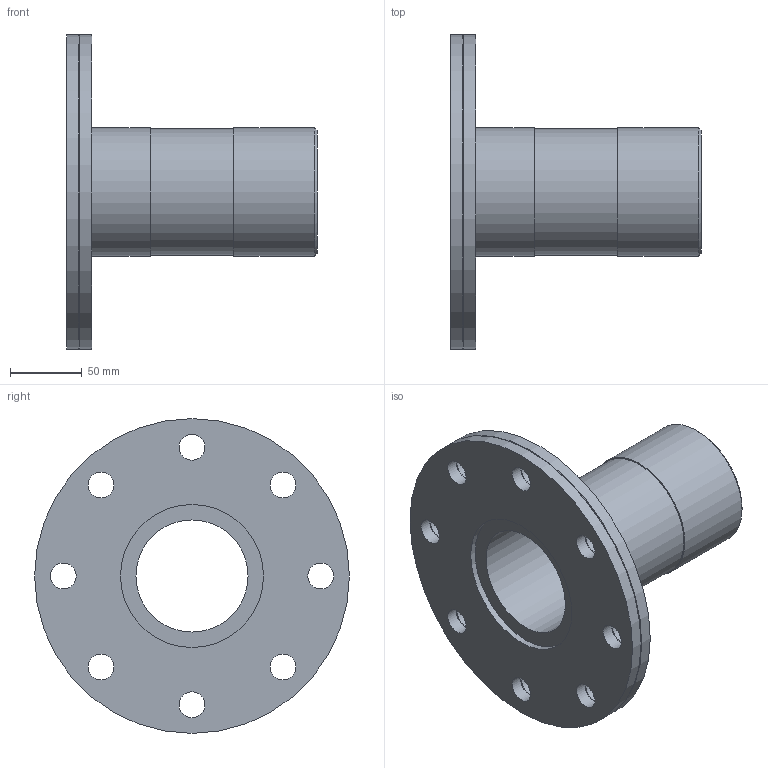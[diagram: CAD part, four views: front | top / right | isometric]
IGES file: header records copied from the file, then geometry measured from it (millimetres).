
Global section: file name: 0723060900400A.ipt; native system: Autodesk Inventor 2015; preprocessor: unknown; author: Кирилл,,11,0; organization: 20170224.180708; date: 20170608.042650; units: millimetre
Bounding box: 175 x 220 x 220 mm (x, y, z)
Volume: 719865.7 mm3; surface area: 176095.2 mm2
Topology: 1 solids, 1 shells, 50 faces, 147 edges, 104 vertices
Faces by surface type: revolution 35, plane 7, cylinder 5, cone 3
Full cylindrical faces by diameter (mm): 88.2 x1, 90 x2, 220 x2
